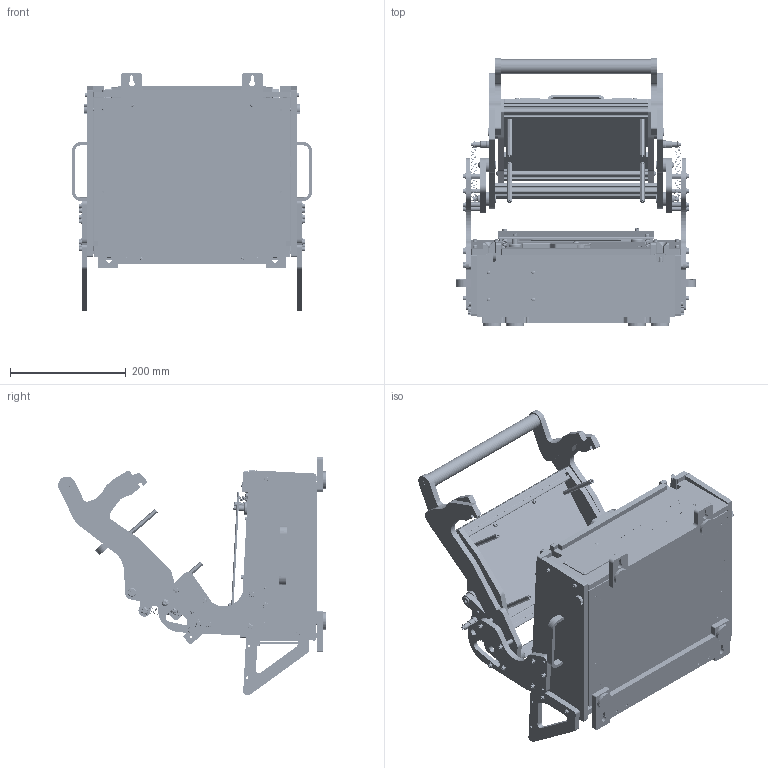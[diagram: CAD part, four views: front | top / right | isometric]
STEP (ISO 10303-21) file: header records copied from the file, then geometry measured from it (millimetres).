
FILE_DESCRIPTION (( 'STEP AP214' ), '1' );
FILE_NAME ('ARF-QLe-P-NSM2-P&P Ouvert.STEP', '2026-10-09T08:17:26', ( '' ), ( '' ), 'SwSTEP 2.0', 'SolidWorks 2015', '' );
FILE_SCHEMA (( 'AUTOMOTIVE_DESIGN' ));
Length unit declared in the file: millimetre
Products named in the file (133): d11960; 694 ZZ; RM_3; TL-05-100-07; Insert M4 profilé 5; 8005_268; F Torx 05x08; F Torx 05x16; gd4x14; 8005_185; el_d4x20; RIVET 3 LONG; chc_04x25; 8005_198 (patin en mousse); 8005_416; équerre; chc_04x12; t31760; chc_03x08; 8122_444; 8005_129; 8005_304; 8005_420; RM_4; tb3ss_cage_a_billes_assemblée; 8005_033; F Torx 04x08; 8005_310; chc_04x16; chc_04x14; 8005_036; ehmf_4x10; 8005_045 poignée STEP; 8005_410; chc_03x10; 8005_035; M04 Ef; 8005_205; 8005_056_Fermer; 8005_407 STEP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
Assembly tree (372 placements, depth 6):
  ARF-QLe-P-NSM2-P&P Ouvert
    8005_056_Fermer
      8005_198_Equere fermer
        8005_307
        chc_04x12  x4
        8005_205  x2
        chc_03x20  x4
        chc_03x05  x2
        Compas
          Compas-support1
          bras de compas  x2
          rivet compas  x3
          Compas-support2
        8005_240
        8005_243
        8005_198 (patin en mousse)  x4
        demi_charniere  x2
        F Torx 05x08  x4
      8005_068
        8005_136
          8005_136
          M04 Hu  x4
          F Torx 05x08  x4
          demi_charniere  x2
        8005_185_Logo ARF
          M04 Hu  x4
          8005_185
          8131_110 (PlaqueID)
          RIVET 3 LONG  x4
        8005_088
          8005_255
          M04 Hu  x2
          chc_03x08  x2
          chc_04x16  x2
          Poignée_low_cost
          8005_028
            chc_04x16
            038040159905
          chc_04x10  x2
          gd4x14  x2
        8005_119
          8005_119
          M04 Hu  x2
          chc_04x16  x2
          8005_028
            chc_04x16
            038040159905
          Poignée_low_cost
          chc_04x10  x2
          gd4x14  x2
        8005_058_D‚connect‚
          8005_200
          8005_128
          8005_268
          chc_04x12  x6
          chc_04x16  x4
          chc_03x20  x2
          chc_03x30  x2
          8005_039
            8005_409
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Bounding box: 413.8 x 462.13 x 411.23 mm (x, y, z)
Volume: 6379129.7 mm3; surface area: 2088133.3 mm2
Topology: 363 solids, 363 shells, 10411 faces, 26470 edges, 17223 vertices
Faces by surface type: plane 4946, cylinder 4147, cone 812, torus 384, bspline 68, sphere 54
Entity records: 204841 total; most frequent: CARTESIAN_POINT 48217, DIRECTION 31729, ORIENTED_EDGE 29634, EDGE_CURVE 14817, AXIS2_PLACEMENT_3D 11849, VERTEX_POINT 9748, LINE 8031, VECTOR 8031
